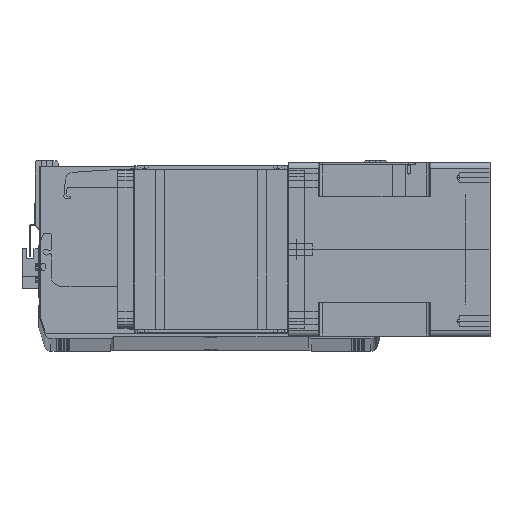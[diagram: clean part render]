
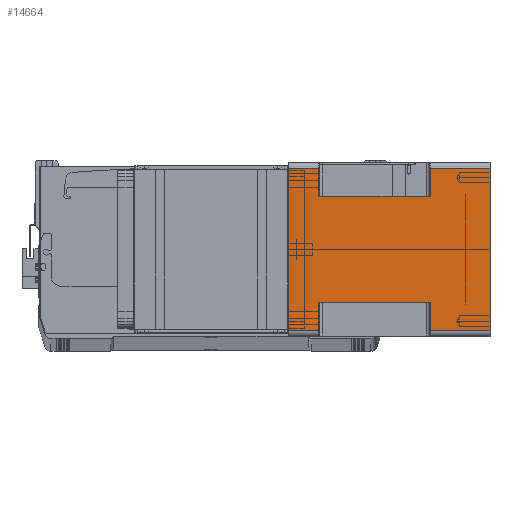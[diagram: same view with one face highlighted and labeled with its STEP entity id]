
A CAD part, top view. The second image highlights one B-rep face of the part: STEP entity #14664.
In plain terms, the highlighted planar face has unit normal (0, 0, 1) as drawn and (1, 0, 0) by its records, which use the part's own axes.
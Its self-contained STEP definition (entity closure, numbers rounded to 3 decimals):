
#283 = LINE ( 'NONE', #35919, #33794 ) ;
#1474 = EDGE_CURVE ( 'NONE', #3937, #26006, #31733, .T. ) ;
#1617 = CARTESIAN_POINT ( 'NONE',  ( 71., -66., -24.5 ) ) ;
#2736 = DIRECTION ( 'NONE',  ( 0., 1., 0. ) ) ;
#2889 = LINE ( 'NONE', #14652, #27246 ) ;
#3181 = LINE ( 'NONE', #18588, #38714 ) ;
#3937 = VERTEX_POINT ( 'NONE', #5349 ) ;
#4803 = ORIENTED_EDGE ( 'NONE', *, *, #1474, .F. ) ;
#4809 = EDGE_CURVE ( 'NONE', #28769, #33541, #283, .T. ) ;
#5259 = EDGE_CURVE ( 'NONE', #40306, #5284, #26628, .T. ) ;
#5284 = VERTEX_POINT ( 'NONE', #38742 ) ;
#5349 = CARTESIAN_POINT ( 'NONE',  ( 71., -43., -115.5 ) ) ;
#5671 = VECTOR ( 'NONE', #34761, 1000. ) ;
#5887 = EDGE_CURVE ( 'NONE', #20669, #14705, #25496, .T. ) ;
#6098 = AXIS2_PLACEMENT_3D ( 'NONE', #16601, #29247, #10247 ) ;
#6308 = EDGE_CURVE ( 'NONE', #14705, #5284, #35830, .T. ) ;
#6507 = CARTESIAN_POINT ( 'NONE',  ( 71., -66., -115.5 ) ) ;
#6544 = CARTESIAN_POINT ( 'NONE',  ( 71., -66., 0. ) ) ;
#6559 = VERTEX_POINT ( 'NONE', #8274 ) ;
#6712 = CARTESIAN_POINT ( 'NONE',  ( 71., 66., -164. ) ) ;
#7681 = EDGE_CURVE ( 'NONE', #8315, #40306, #10302, .T. ) ;
#8274 = CARTESIAN_POINT ( 'NONE',  ( 71., 66., -115.5 ) ) ;
#8315 = VERTEX_POINT ( 'NONE', #20017 ) ;
#9109 = EDGE_CURVE ( 'NONE', #6559, #18269, #30422, .T. ) ;
#9146 = VERTEX_POINT ( 'NONE', #6507 ) ;
#9311 = DIRECTION ( 'NONE',  ( 0., 0., 1. ) ) ;
#10247 = DIRECTION ( 'NONE',  ( 0., 1., 0. ) ) ;
#10302 = LINE ( 'NONE', #31373, #16859 ) ;
#12527 = CARTESIAN_POINT ( 'NONE',  ( 71., -66., -115.5 ) ) ;
#12746 = CARTESIAN_POINT ( 'NONE',  ( 71., -43., -24.5 ) ) ;
#13443 = VECTOR ( 'NONE', #22970, 1000. ) ;
#14256 = LINE ( 'NONE', #25378, #5671 ) ;
#14402 = ORIENTED_EDGE ( 'NONE', *, *, #18297, .T. ) ;
#14476 = VECTOR ( 'NONE', #9311, 1000. ) ;
#14652 = CARTESIAN_POINT ( 'NONE',  ( 71., -66., -164. ) ) ;
#14664 = ADVANCED_FACE ( 'NONE', ( #16998 ), #16740, .T. ) ;
#14705 = VERTEX_POINT ( 'NONE', #29100 ) ;
#15168 = EDGE_CURVE ( 'NONE', #20669, #18269, #40294, .T. ) ;
#15688 = ORIENTED_EDGE ( 'NONE', *, *, #5259, .F. ) ;
#16016 = CARTESIAN_POINT ( 'NONE',  ( 71., 43., -164. ) ) ;
#16601 = CARTESIAN_POINT ( 'NONE',  ( 71., -66., -164. ) ) ;
#16740 = PLANE ( 'NONE',  #6098 ) ;
#16859 = VECTOR ( 'NONE', #35214, 1000. ) ;
#16998 = FACE_OUTER_BOUND ( 'NONE', #28161, .T. ) ;
#17793 = ORIENTED_EDGE ( 'NONE', *, *, #35805, .F. ) ;
#18269 = VERTEX_POINT ( 'NONE', #37915 ) ;
#18297 = EDGE_CURVE ( 'NONE', #3937, #9146, #32857, .T. ) ;
#18588 = CARTESIAN_POINT ( 'NONE',  ( 71., -43., -24.5 ) ) ;
#19357 = CARTESIAN_POINT ( 'NONE',  ( 71., 43., -115.5 ) ) ;
#19577 = DIRECTION ( 'NONE',  ( 0., 1., 0. ) ) ;
#19583 = DIRECTION ( 'NONE',  ( 0., 0., 1. ) ) ;
#20017 = CARTESIAN_POINT ( 'NONE',  ( 71., -66., -24.5 ) ) ;
#20394 = CARTESIAN_POINT ( 'NONE',  ( 71., -66., 0. ) ) ;
#20669 = VERTEX_POINT ( 'NONE', #35383 ) ;
#21151 = DIRECTION ( 'NONE',  ( 0., 0., 1. ) ) ;
#21424 = EDGE_CURVE ( 'NONE', #8315, #26006, #3181, .T. ) ;
#22070 = ORIENTED_EDGE ( 'NONE', *, *, #21424, .T. ) ;
#22121 = EDGE_CURVE ( 'NONE', #33541, #6559, #14256, .T. ) ;
#22970 = DIRECTION ( 'NONE',  ( 0., 1., 0. ) ) ;
#25378 = CARTESIAN_POINT ( 'NONE',  ( 71., 66., -164. ) ) ;
#25496 = LINE ( 'NONE', #1617, #40712 ) ;
#26006 = VERTEX_POINT ( 'NONE', #12746 ) ;
#26628 = LINE ( 'NONE', #6544, #13443 ) ;
#27246 = VECTOR ( 'NONE', #21151, 1000. ) ;
#28161 = EDGE_LOOP ( 'NONE', ( #4803, #14402, #17793, #35959, #28453, #37763, #34076, #35908, #28395, #15688, #32491, #22070 ) ) ;
#28212 = VECTOR ( 'NONE', #19583, 1000. ) ;
#28395 = ORIENTED_EDGE ( 'NONE', *, *, #6308, .T. ) ;
#28453 = ORIENTED_EDGE ( 'NONE', *, *, #22121, .T. ) ;
#28727 = CARTESIAN_POINT ( 'NONE',  ( 71., -43., -164. ) ) ;
#28769 = VERTEX_POINT ( 'NONE', #31717 ) ;
#29100 = CARTESIAN_POINT ( 'NONE',  ( 71., 66., -24.5 ) ) ;
#29119 = DIRECTION ( 'NONE',  ( 0., -1., 0. ) ) ;
#29247 = DIRECTION ( 'NONE',  ( 1., 0., 0. ) ) ;
#30422 = LINE ( 'NONE', #19357, #32984 ) ;
#31373 = CARTESIAN_POINT ( 'NONE',  ( 71., -66., -164. ) ) ;
#31717 = CARTESIAN_POINT ( 'NONE',  ( 71., -66., -164. ) ) ;
#31733 = LINE ( 'NONE', #28727, #14476 ) ;
#32491 = ORIENTED_EDGE ( 'NONE', *, *, #7681, .F. ) ;
#32857 = LINE ( 'NONE', #12527, #39432 ) ;
#32984 = VECTOR ( 'NONE', #38271, 1000. ) ;
#33541 = VERTEX_POINT ( 'NONE', #6712 ) ;
#33708 = VECTOR ( 'NONE', #38713, 1000. ) ;
#33794 = VECTOR ( 'NONE', #19577, 1000. ) ;
#34076 = ORIENTED_EDGE ( 'NONE', *, *, #15168, .F. ) ;
#34106 = DIRECTION ( 'NONE',  ( 0., 1., 0. ) ) ;
#34761 = DIRECTION ( 'NONE',  ( 0., 0., 1. ) ) ;
#35214 = DIRECTION ( 'NONE',  ( 0., 0., 1. ) ) ;
#35383 = CARTESIAN_POINT ( 'NONE',  ( 71., 43., -24.5 ) ) ;
#35805 = EDGE_CURVE ( 'NONE', #28769, #9146, #2889, .T. ) ;
#35830 = LINE ( 'NONE', #39064, #28212 ) ;
#35908 = ORIENTED_EDGE ( 'NONE', *, *, #5887, .T. ) ;
#35919 = CARTESIAN_POINT ( 'NONE',  ( 71., -66., -164. ) ) ;
#35959 = ORIENTED_EDGE ( 'NONE', *, *, #4809, .T. ) ;
#37763 = ORIENTED_EDGE ( 'NONE', *, *, #9109, .T. ) ;
#37915 = CARTESIAN_POINT ( 'NONE',  ( 71., 43., -115.5 ) ) ;
#38271 = DIRECTION ( 'NONE',  ( 0., -1., 0. ) ) ;
#38713 = DIRECTION ( 'NONE',  ( 0., 0., -1. ) ) ;
#38714 = VECTOR ( 'NONE', #2736, 1000. ) ;
#38742 = CARTESIAN_POINT ( 'NONE',  ( 71., 66., 0. ) ) ;
#39064 = CARTESIAN_POINT ( 'NONE',  ( 71., 66., -164. ) ) ;
#39432 = VECTOR ( 'NONE', #29119, 1000. ) ;
#40294 = LINE ( 'NONE', #16016, #33708 ) ;
#40306 = VERTEX_POINT ( 'NONE', #20394 ) ;
#40712 = VECTOR ( 'NONE', #34106, 1000. ) ;
